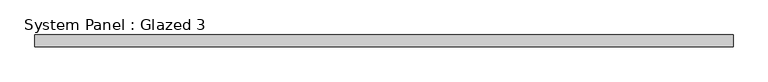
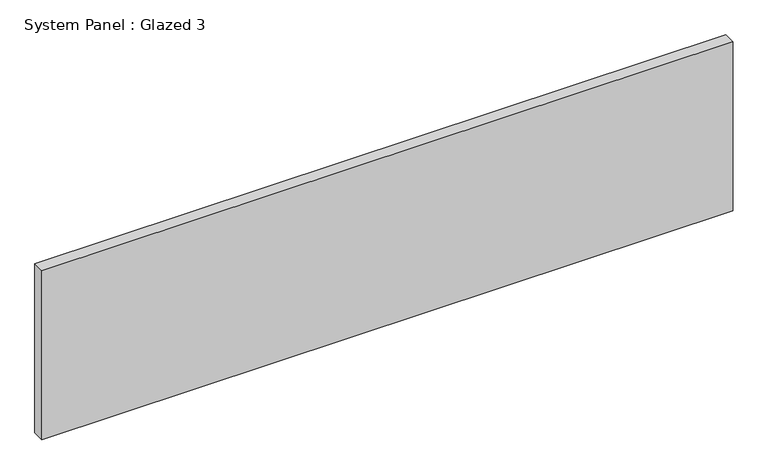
"""IFC4 building model written with IfcOpenShell, lengths in millimetres: plate geometry, System Panel : Glazed 3."""

from ifc_helpers import new_model, si_unit, origin, origin_with_axes, place, context, project, spatial, polyline, outline, extrude, source, transform, mapped, element, save


def system_panel_glazed_3_8976361c(model_context):
    return source(origin(), model_context, "Body", "SweptSolid", [
        extrude(outline(polyline([(725.0, -12.5), (-725.0, -12.5), (-725.0, 12.5), (725.0, 12.5), (725.0, -12.5)])), origin_with_axes(), (0.0, 0.0, 1.0), 375.0),
    ])


if __name__ == "__main__":
    model = new_model("IFC4")
    model_context = context("Model", 3, world=origin())
    ifc_project = project(units=[si_unit("LENGTHUNIT", "METRE", prefix="MILLI")], contexts=[model_context])
    site = spatial("IfcSite", under=ifc_project)
    building = spatial("IfcBuilding", under=site)
    placement = place(None, origin())
    system_panel_glazed_3_shape = system_panel_glazed_3_8976361c(model_context)
    element("IfcPlate", 1, ObjectType="System Panel : Glazed 3", at=placement, inside=building, context=model_context, shape_type="MappedRepresentation", body=[
        mapped(system_panel_glazed_3_shape, transform((0.0, 0.0, 0.0), x_axis=(1.0, 0.0, 0.0), y_axis=(0.0, 1.0, 0.0), z_axis=(0.0, 0.0, 1.0))),
    ])
    save(model, "model.ifc")
